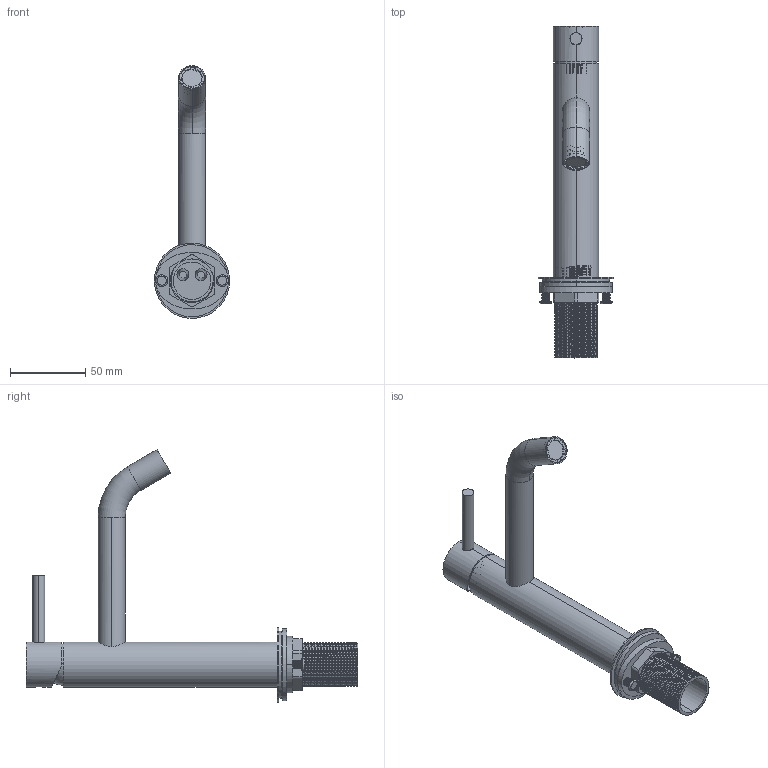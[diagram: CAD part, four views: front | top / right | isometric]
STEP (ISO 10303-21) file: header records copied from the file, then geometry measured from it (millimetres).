
FILE_DESCRIPTION (( 'STEP AP214' ), '1' );
FILE_NAME ('TSL.950.STEP', '2025-01-27T15:17:33', ( '' ), ( '' ), 'SwSTEP 2.0', 'SolidWorks 2022', '' );
FILE_SCHEMA (( 'AUTOMOTIVE_DESIGN' ));
Length unit declared in the file: millimetre
Products named in the file (10): CARTRIDGE RING THREADED; THREADED CONNECTOR; WASHER STACK; AREATOR PART; CARTRIDGE BODY; TSL.950; DECK MOUNT BODY; CARTRIDGE CAP; HANDLE PART; LOCKING NUT
Assembly tree (9 placements, depth 2):
  TSL.950
    DECK MOUNT BODY
    CARTRIDGE BODY
    CARTRIDGE RING THREADED
    CARTRIDGE CAP
    HANDLE PART
    THREADED CONNECTOR
    WASHER STACK
    LOCKING NUT
    AREATOR PART
Bounding box: 49.99 x 220.37 x 167.79 mm (x, y, z)
Volume: 105592.9 mm3; surface area: 86903.7 mm2
Topology: 17 solids, 17 shells, 619 faces, 1650 edges, 1080 vertices
Faces by surface type: cylinder 382, plane 132, bspline 85, cone 10, torus 8, sphere 2
Entity records: 44122 total; most frequent: CARTESIAN_POINT 30442, ORIENTED_EDGE 3288, DIRECTION 2245, EDGE_CURVE 1644, VERTEX_POINT 1078, AXIS2_PLACEMENT_3D 826, EDGE_LOOP 672, FACE_OUTER_BOUND 619
